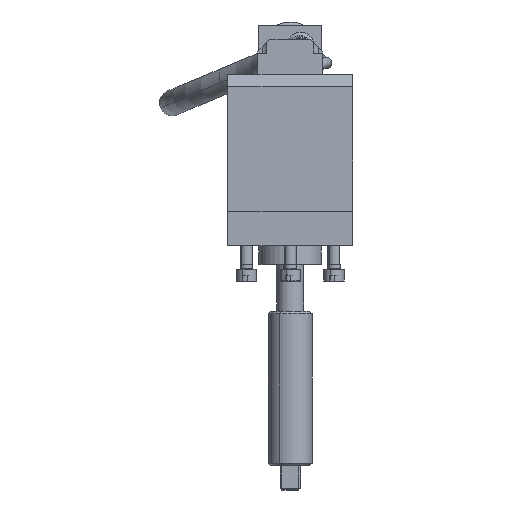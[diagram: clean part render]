
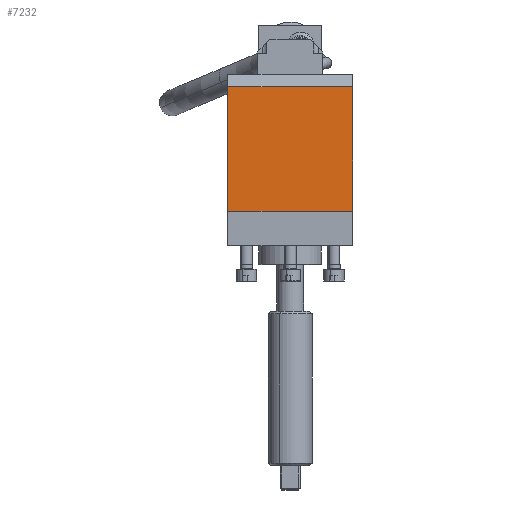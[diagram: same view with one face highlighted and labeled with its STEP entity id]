
A CAD part, top view. The second image highlights one B-rep face of the part: STEP entity #7232.
In plain terms, the highlighted planar face has unit normal (0, 0, 1).
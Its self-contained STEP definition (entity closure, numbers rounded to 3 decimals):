
#7171=CARTESIAN_POINT('Vertex',(40.,32.,633.1)) ;
#7187=CARTESIAN_POINT('Vertex',(-40.,32.,633.1)) ;
#7190=CARTESIAN_POINT('Line Origine',(0.,32.,633.1)) ;
#7202=CARTESIAN_POINT('Axis2P3D Location',(0.,-48.,633.1)) ;
#7207=CARTESIAN_POINT('Line Origine',(40.,-8.,633.1)) ;
#7211=CARTESIAN_POINT('Vertex',(40.,-48.,633.1)) ;
#7214=CARTESIAN_POINT('Line Origine',(-40.,-8.,633.1)) ;
#7218=CARTESIAN_POINT('Vertex',(-40.,-48.,633.1)) ;
#7221=CARTESIAN_POINT('Line Origine',(0.,-48.,633.1)) ;
#7191=DIRECTION('Vector Direction',(1.,0.,0.)) ;
#7203=DIRECTION('Axis2P3D Direction',(0.,0.,-1.)) ;
#7204=DIRECTION('Axis2P3D XDirection',(0.,1.,0.)) ;
#7208=DIRECTION('Vector Direction',(0.,1.,0.)) ;
#7215=DIRECTION('Vector Direction',(0.,1.,0.)) ;
#7222=DIRECTION('Vector Direction',(1.,0.,0.)) ;
#7205=AXIS2_PLACEMENT_3D('Plane Axis2P3D',#7202,#7203,#7204) ;
#7227=ORIENTED_EDGE('',*,*,#7213,.T.) ;
#7228=ORIENTED_EDGE('',*,*,#7194,.F.) ;
#7229=ORIENTED_EDGE('',*,*,#7220,.F.) ;
#7230=ORIENTED_EDGE('',*,*,#7225,.T.) ;
#7192=VECTOR('Line Direction',#7191,1.) ;
#7209=VECTOR('Line Direction',#7208,1.) ;
#7216=VECTOR('Line Direction',#7215,1.) ;
#7223=VECTOR('Line Direction',#7222,1.) ;
#7232=ADVANCED_FACE('',(#7231),#7206,.F.) ;
#7194=EDGE_CURVE('',#7188,#7172,#7193,.T.) ;
#7213=EDGE_CURVE('',#7212,#7172,#7210,.T.) ;
#7220=EDGE_CURVE('',#7219,#7188,#7217,.T.) ;
#7225=EDGE_CURVE('',#7219,#7212,#7224,.T.) ;
#7226=EDGE_LOOP('',(#7227,#7228,#7229,#7230)) ;
#7231=FACE_OUTER_BOUND('',#7226,.T.) ;
#7193=LINE('Line',#7190,#7192) ;
#7210=LINE('Line',#7207,#7209) ;
#7217=LINE('Line',#7214,#7216) ;
#7224=LINE('Line',#7221,#7223) ;
#7206=PLANE('Plane',#7205) ;
#7172=VERTEX_POINT('',#7171) ;
#7188=VERTEX_POINT('',#7187) ;
#7212=VERTEX_POINT('',#7211) ;
#7219=VERTEX_POINT('',#7218) ;
